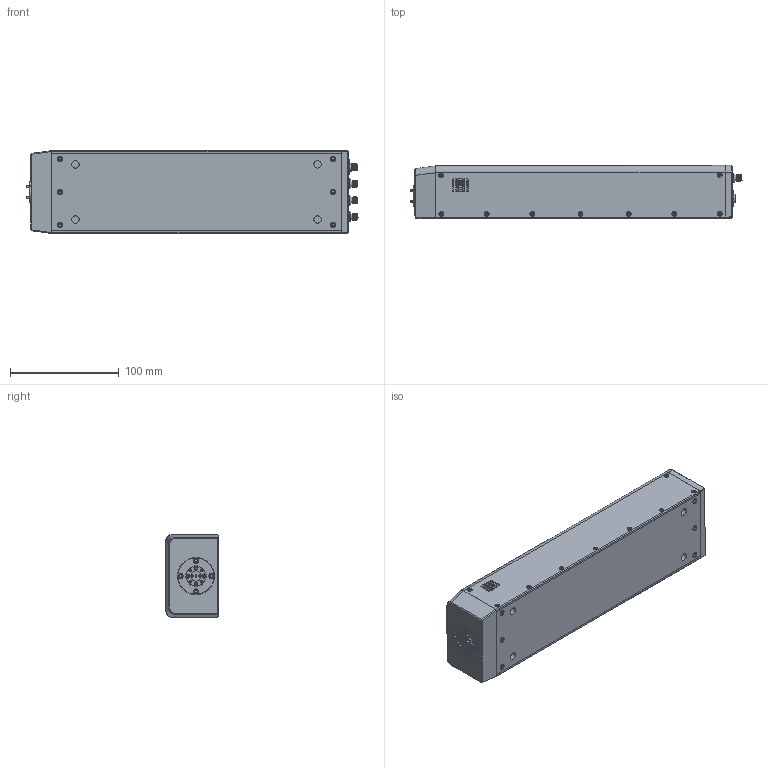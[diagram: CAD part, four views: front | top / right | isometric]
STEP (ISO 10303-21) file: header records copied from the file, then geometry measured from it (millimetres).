
FILE_DESCRIPTION (( 'STEP AP214' ), '1' );
FILE_NAME ('TO-SE-A_Mountable, Defeatured.STEP', '2023-06-28T18:46:31', ( '' ), ( '' ), 'SwSTEP 2.0', 'SolidWorks 2021', '' );
FILE_SCHEMA (( 'AUTOMOTIVE_DESIGN' ));
Length unit declared in the file: inch
Products named in the file (1): TO-SE-A_Mountable, Defeatured
Bounding box: 305.75 x 48.8 x 76.39 mm (x, y, z)
Volume: 1063376.8 mm3; surface area: 145604.4 mm2
Topology: 38 solids, 49 shells, 1793 faces, 4374 edges, 2748 vertices
Faces by surface type: plane 780, cylinder 617, cone 370, bspline 22, torus 4
Entity records: 82978 total; most frequent: CARTESIAN_POINT 20262, DIRECTION 8604, ORIENTED_EDGE 8556, EDGE_CURVE 4278, AXIS2_PLACEMENT_3D 3306, VERTEX_POINT 2748, EDGE_LOOP 2028, LINE 1992
